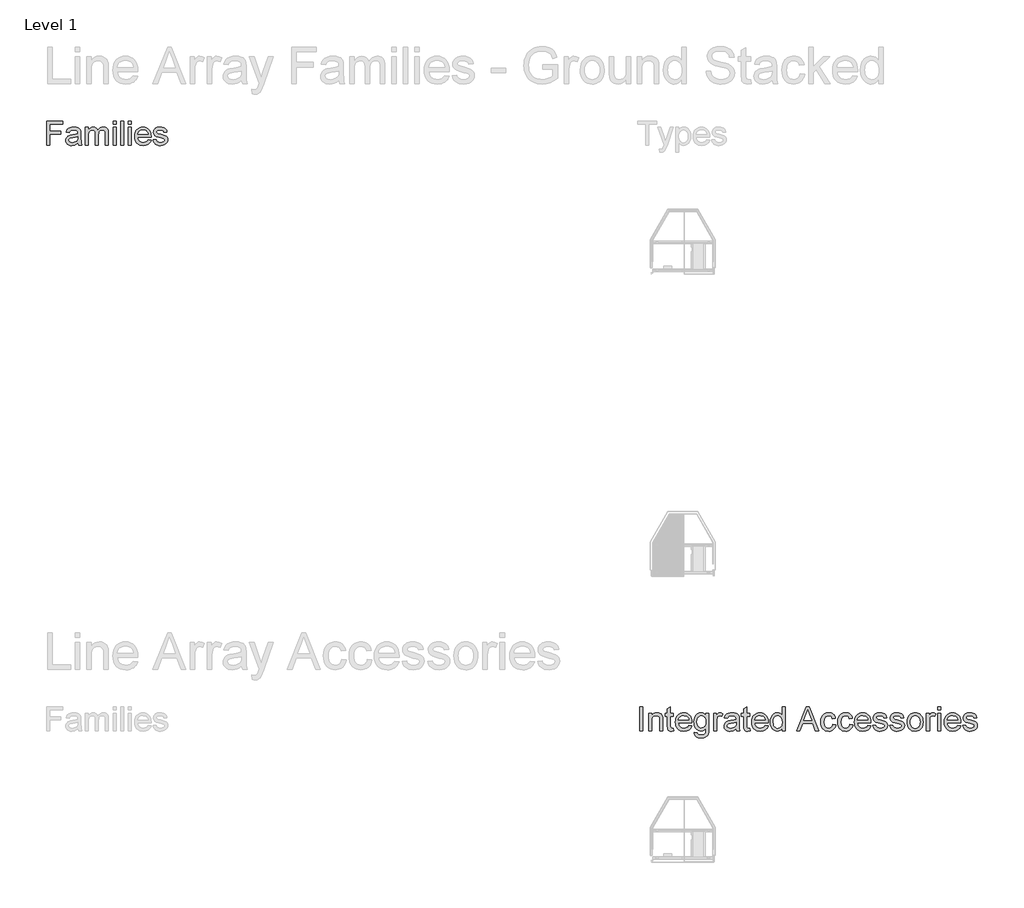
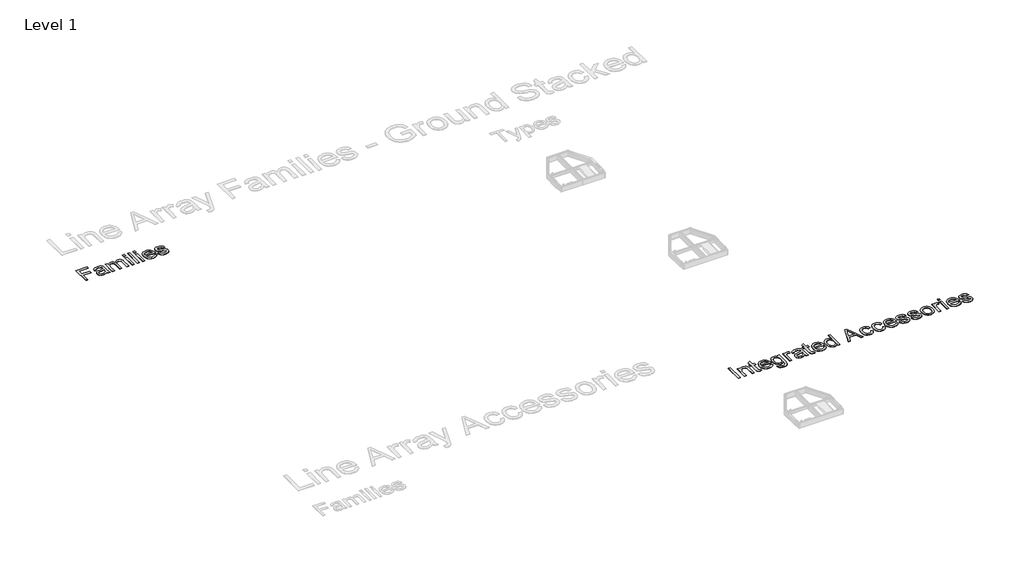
# One storey, part 2 of 7: 2 proxies.
"""IFC4 building model written with IfcOpenShell, lengths in millimetres."""

from ifc_helpers import new_model, si_unit, origin, origin_with_axes, place, context, project, spatial, polyline, outline, extrude, element, save

model = new_model("IFC4")

# Units and contexts
model_context = context("Model", 3, world=origin())
ifc_project = project(units=[si_unit("LENGTHUNIT", "METRE", prefix="MILLI")], contexts=[model_context])

# Site, building, storey
site = spatial("IfcSite", under=ifc_project)
building = spatial("IfcBuilding", under=site)
storey = spatial("IfcBuildingStorey", under=building, Name="Level 1", Elevation=0.0)

# Proxies
placement = place(None, origin())
element("IfcBuildingElementProxy", 1, Name="400mm Arial", ObjectType="400mm Arial", at=placement, inside=storey, context=model_context, shape_type="SweptSolid", body=[
    extrude(outline(polyline([(-21056.720891, -2748.6945164), (-21056.720891, -2356.9369407), (-20793.5087698, -2356.9369407), (-20793.5087698, -2405.9066376), (-21007.7511941, -2405.9066376), (-21007.7511941, -2522.2096679), (-20824.1148304, -2522.2096679), (-20824.1148304, -2571.1793649), (-21007.7511941, -2571.1793649), (-21007.7511941, -2748.6945164), (-21056.720891, -2748.6945164)])), origin_with_axes(), (0.0, 0.0, 1.0), 5.0),
    extrude(outline(polyline([(-20548.660285, -2711.9672437), (-20572.0571836, -2732.02856), (-20596.1475009, -2745.1556907), (-20621.4811893, -2752.4007191), (-20648.6082016, -2754.8157285), (-20670.4120309, -2753.3631362), (-20689.5318522, -2749.0053592), (-20705.9676654, -2741.7423976), (-20719.7194706, -2731.5742513), (-20730.5780466, -2719.1465169), (-20738.3341723, -2705.104791), (-20742.9878477, -2689.4490737), (-20744.5390729, -2672.1793649), (-20742.1957963, -2651.8789388), (-20735.1659668, -2633.4435695), (-20724.3223352, -2617.6623195), (-20710.5376524, -2605.3242513), (-20676.2493001, -2589.2560695), (-20633.879035, -2581.8914861), (-20583.8094327, -2574.144327), (-20548.9472168, -2565.0581528), (-20548.660285, -2554.1547437), (-20552.0317338, -2532.3001035), (-20562.1460804, -2518.0013346), (-20584.7658721, -2507.3848573), (-20616.2805501, -2503.8460316), (-20645.4519516, -2506.2012636), (-20665.8241107, -2513.2669596), (-20679.7163929, -2526.3343128), (-20689.4481638, -2546.6945164), (-20738.4178607, -2540.5733043), (-20729.9175056, -2513.7930013), (-20717.2327282, -2492.7513346), (-20699.1799346, -2476.6592418), (-20674.5755312, -2464.7276604), (-20644.4835568, -2457.339166), (-20609.9680501, -2454.8763346), (-20576.8632916, -2457.0522342), (-20550.6209857, -2463.5799331), (-20530.8346458, -2473.3953924), (-20517.097785, -2485.4345732), (-20507.9876997, -2500.3191613), (-20502.0816865, -2518.6708422), (-20499.690588, -2561.519327), (-20499.690588, -2622.4445164), (-20497.2038456, -2707.5198005), (-20487.4481638, -2748.6945164), (-20536.4178607, -2748.6945164), (-20544.2606638, -2731.6698952), (-20548.660285, -2711.9672437)]), holes=[polyline([(-20548.660285, -2614.0278498), (-20581.5618001, -2622.1814956), (-20627.6621789, -2629.0439482), (-20669.7933342, -2636.9823952), (-20680.7565208, -2642.4101888), (-20688.8743001, -2649.894327), (-20693.8956069, -2658.8609464), (-20695.5693759, -2668.7361831), (-20691.9229507, -2683.2979729), (-20680.9836751, -2695.2295543), (-20662.990659, -2703.1919123), (-20638.1830122, -2705.8460316), (-20611.8809289, -2702.9169359), (-20588.6394516, -2694.129649), (-20569.7975956, -2681.1818507), (-20556.6943759, -2665.771221), (-20550.8840066, -2649.894327), (-20548.9472168, -2627.896221), (-20548.660285, -2614.0278498)])]), origin_with_axes(), (0.0, 0.0, 1.0), 5.0),
    extrude(outline(polyline([(-20432.3572547, -2748.6945164), (-20432.3572547, -2460.9975467), (-20383.3875577, -2460.9975467), (-20383.3875577, -2508.3412967), (-20368.658391, -2486.594256), (-20349.720891, -2469.5576793), (-20327.2206543, -2458.5466708), (-20301.8032774, -2454.8763346), (-20274.5686657, -2458.6184037), (-20252.7379365, -2469.8446111), (-20236.4306448, -2487.8137162), (-20225.7663456, -2511.7844785), (-20207.9167954, -2486.8871656), (-20187.5565918, -2469.1033706), (-20164.6857348, -2458.4330936), (-20139.3042244, -2454.8763346), (-20119.7002057, -2456.3558268), (-20102.4932632, -2460.7943034), (-20087.683397, -2468.1917643), (-20075.2706069, -2478.5482096), (-20065.4581365, -2491.9831942), (-20058.4492291, -2508.6162731), (-20054.2438846, -2528.4474461), (-20052.8421032, -2551.4767134), (-20052.8421032, -2748.6945164), (-20101.8118001, -2748.6945164), (-20101.8118001, -2572.5183801), (-20106.3548872, -2531.630596), (-20112.7391202, -2520.3565666), (-20122.8056448, -2511.4975467), (-20135.7534431, -2505.7589104), (-20150.7814971, -2503.8460316), (-20177.3107348, -2508.7477835), (-20198.9382206, -2523.4530392), (-20207.3279874, -2534.7330463), (-20213.320678, -2548.96606), (-20218.1148304, -2586.2911073), (-20218.1148304, -2748.6945164), (-20267.0845274, -2748.6945164), (-20267.0845274, -2567.0666755), (-20269.9179791, -2539.3777551), (-20278.4183342, -2519.6272816), (-20293.3746552, -2507.7913441), (-20315.5760047, -2503.8460316), (-20334.4417717, -2506.4762399), (-20351.8250577, -2514.3668649), (-20366.1716486, -2527.3266187), (-20375.9273304, -2545.1642134), (-20381.5225009, -2569.9120827), (-20383.3875577, -2603.6026604), (-20383.3875577, -2748.6945164), (-20432.3572547, -2748.6945164)])), origin_with_axes(), (0.0, 0.0, 1.0), 5.0),
    extrude(outline(polyline([(-19979.3875577, -2748.6945164), (-19979.3875577, -2460.9975467), (-19930.4178607, -2460.9975467), (-19930.4178607, -2748.6945164), (-19979.3875577, -2748.6945164)])), origin_with_axes(), (0.0, 0.0, 1.0), 5.0),
    extrude(outline(polyline([(-19979.3875577, -2405.9066376), (-19979.3875577, -2356.9369407), (-19930.4178607, -2356.9369407), (-19930.4178607, -2405.9066376), (-19979.3875577, -2405.9066376)])), origin_with_axes(), (0.0, 0.0, 1.0), 5.0),
    extrude(outline(polyline([(-19856.9633153, -2748.6945164), (-19856.9633153, -2356.9369407), (-19807.9936183, -2356.9369407), (-19807.9936183, -2748.6945164), (-19856.9633153, -2748.6945164)])), origin_with_axes(), (0.0, 0.0, 1.0), 5.0),
    extrude(outline(polyline([(-19734.5390729, -2748.6945164), (-19734.5390729, -2460.9975467), (-19685.5693759, -2460.9975467), (-19685.5693759, -2748.6945164), (-19734.5390729, -2748.6945164)])), origin_with_axes(), (0.0, 0.0, 1.0), 5.0),
    extrude(outline(polyline([(-19734.5390729, -2405.9066376), (-19734.5390729, -2356.9369407), (-19685.5693759, -2356.9369407), (-19685.5693759, -2405.9066376), (-19734.5390729, -2405.9066376)])), origin_with_axes(), (0.0, 0.0, 1.0), 5.0),
    extrude(outline(polyline([(-19410.6886941, -2662.9975467), (-19362.6754365, -2669.1187589), (-19370.0370309, -2688.3491684), (-19379.975034, -2705.2960789), (-19392.4894457, -2719.9594904), (-19407.580266, -2732.3394028), (-19425.0920736, -2742.1727953), (-19444.8694469, -2749.1966471), (-19491.220891, -2754.8157285), (-19521.605775, -2752.3917525), (-19548.6789876, -2745.1198242), (-19572.4405288, -2732.9999437), (-19592.8903986, -2716.0321111), (-19609.3351784, -2694.6885683), (-19621.0814497, -2669.4415571), (-19628.1292125, -2640.2910777), (-19630.4784668, -2607.2371301), (-19628.1053015, -2573.062355), (-19620.9858058, -2542.9404918), (-19609.1199796, -2516.8715406), (-19592.5078229, -2494.8555013), (-19572.1117528, -2477.3646159), (-19548.8941865, -2464.8711263), (-19522.855124, -2457.3750325), (-19493.9945653, -2454.8763346), (-19466.0635461, -2457.3690548), (-19440.8045795, -2464.8472153), (-19418.2176654, -2477.3108161), (-19398.3028039, -2494.7598573), (-19382.0463231, -2516.7280747), (-19370.4345511, -2542.7492039), (-19363.4674879, -2572.8232451), (-19361.1451335, -2606.9501982), (-19361.4320653, -2620.1490619), (-19581.5087698, -2620.1490619), (-19578.6723292, -2639.6903142), (-19573.0323257, -2656.8046017), (-19564.5887592, -2671.4919241), (-19553.3416297, -2683.7522816), (-19524.9234242, -2700.3225941), (-19490.2644516, -2705.8460316), (-19464.2014782, -2703.2875562), (-19442.2511941, -2695.6121301), (-19424.4135994, -2682.3415335), (-19410.6886941, -2662.9975467)]), holes=[polyline([(-19581.5087698, -2571.1793649), (-19410.1148304, -2571.1793649), (-19416.7381732, -2545.3076793), (-19429.721838, -2526.800577), (-19443.076123, -2516.7579634), (-19458.2715539, -2509.5846679), (-19494.1858532, -2503.8460316), (-19527.1949677, -2508.4249852), (-19554.4893569, -2522.161846), (-19573.4627234, -2543.5741329), (-19581.5087698, -2571.1793649)])]), origin_with_axes(), (0.0, 0.0, 1.0), 5.0),
    extrude(outline(polyline([(-19330.5390729, -2662.9975467), (-19281.5693759, -2656.8763346), (-19273.8461278, -2677.8223573), (-19258.9017622, -2693.2210316), (-19236.6406354, -2702.6897816), (-19206.9671032, -2705.8460316), (-19177.6522357, -2702.9528024), (-19157.0409668, -2694.2731149), (-19144.8463645, -2681.6959369), (-19140.7814971, -2667.1102361), (-19144.8702755, -2654.628702), (-19157.1366107, -2645.1121301), (-19207.5409668, -2631.1481149), (-19281.2824441, -2607.1893081), (-19299.9449677, -2595.1501272), (-19313.4666297, -2579.2134558), (-19321.680053, -2560.3955107), (-19324.4178607, -2539.7125089), (-19322.2180501, -2520.7391424), (-19315.6186183, -2503.224346), (-19305.2173399, -2487.8615382), (-19291.6119895, -2475.3441376), (-19260.4798872, -2460.8540808), (-19218.3487319, -2454.8763346), (-19186.4753891, -2457.2793886), (-19158.7625577, -2464.4885505), (-19136.4775198, -2475.7984464), (-19120.8875577, -2490.503702), (-19110.5580122, -2509.6922674), (-19104.0542244, -2534.4520922), (-19153.0239213, -2540.5733043), (-19159.2049109, -2525.1626746), (-19171.4353797, -2513.5538914), (-19189.8348825, -2506.2729965), (-19214.5229744, -2503.8460316), (-19242.6422925, -2506.1653971), (-19261.3885047, -2513.1234937), (-19271.933249, -2523.1661073), (-19275.4481638, -2534.739024), (-19269.6138835, -2548.989971), (-19251.345891, -2559.7977361), (-19209.1669138, -2570.2229255), (-19137.2904933, -2593.2731149), (-19118.3051713, -2604.2960789), (-19103.9107585, -2619.3839104), (-19094.8365397, -2638.5844312), (-19091.8118001, -2661.9454634), (-19095.3625814, -2686.0955581), (-19106.0149251, -2708.8109937), (-19123.3623446, -2728.3104018), (-19146.9983532, -2742.8124142), (-19175.5480691, -2751.8149), (-19207.6366107, -2754.8157285), (-19233.9924938, -2753.369114), (-19257.0127944, -2749.0292702), (-19276.6975127, -2741.7961973), (-19293.0466486, -2731.6698952), (-19306.4009336, -2718.6981859), (-19317.1010994, -2702.9288914), (-19325.1471458, -2684.3620117), (-19330.5390729, -2662.9975467)])), origin_with_axes(), (0.0, 0.0, 1.0), 5.0),
])
element("IfcBuildingElementProxy", 2, Name="400mm Arial", ObjectType="400mm Arial", at=placement, inside=storey, context=model_context, shape_type="SweptSolid", body=[
    extrude(outline(polyline([(-11437.7764845, -12248.6945164), (-11437.7764845, -11856.9369407), (-11388.8067875, -11856.9369407), (-11388.8067875, -12248.6945164), (-11437.7764845, -12248.6945164)])), origin_with_axes(), (0.0, 0.0, 1.0), 5.0),
    extrude(outline(polyline([(-11296.9886057, -12248.6945164), (-11296.9886057, -11960.9975467), (-11248.0189088, -11960.9975467), (-11248.0189088, -12001.1680013), (-11231.006243, -11980.9153971), (-11210.5743065, -11966.4492513), (-11186.7230991, -11957.7695638), (-11159.4526209, -11954.8763346), (-11135.3144817, -11957.2076556), (-11113.2087762, -11964.2016187), (-11094.7734069, -11974.9854729), (-11081.6462762, -11988.6864672), (-11072.7394343, -12005.2687352), (-11066.9649315, -12024.6964104), (-11064.3825451, -12072.0401604), (-11064.3825451, -12248.6945164), (-11113.3522421, -12248.6945164), (-11113.3522421, -12078.6395922), (-11114.7629902, -12053.3178592), (-11118.9952345, -12035.3128876), (-11126.8021711, -12022.4129113), (-11138.9369959, -12012.4061642), (-11154.4910915, -12005.9860647), (-11172.5558406, -12003.8460316), (-11201.2370669, -12008.6521395), (-11225.6860489, -12023.0704634), (-11235.4566751, -12034.8406457), (-11242.4356938, -12050.9267607), (-11246.623105, -12071.3288086), (-11248.0189088, -12096.0467892), (-11248.0189088, -12248.6945164), (-11296.9886057, -12248.6945164)])), origin_with_axes(), (0.0, 0.0, 1.0), 5.0),
    extrude(outline(polyline([(-10892.9886057, -12207.8545543), (-10886.8673936, -12250.1291755), (-10923.4990224, -12254.8157285), (-10947.0035205, -12252.7832948), (-10964.5302724, -12246.6859937), (-10976.9161625, -12237.2889767), (-10984.9980754, -12225.3573952), (-10989.4455186, -12204.8656812), (-10990.9279997, -12169.7882664), (-10990.9279997, -12009.9672437), (-11027.6552724, -12009.9672437), (-11027.6552724, -11960.9975467), (-10990.9279997, -11960.9975467), (-10990.9279997, -11891.081827), (-10941.9583027, -11862.2930013), (-10941.9583027, -11960.9975467), (-10892.9886057, -11960.9975467), (-10892.9886057, -12009.9672437), (-10941.9583027, -12009.9672437), (-10941.9583027, -12168.3536073), (-10939.3759163, -12193.6036073), (-10931.0070716, -12202.5463157), (-10914.3172042, -12205.8460316), (-10892.9886057, -12207.8545543)])), origin_with_axes(), (0.0, 0.0, 1.0), 5.0),
    extrude(outline(polyline([(-10642.5927724, -12162.9975467), (-10594.5795148, -12169.1187589), (-10601.9411093, -12188.3491684), (-10611.8791124, -12205.2960789), (-10624.3935241, -12219.9594904), (-10639.4843444, -12232.3394028), (-10656.9961519, -12242.1727953), (-10676.7735252, -12249.1966471), (-10723.1249694, -12254.8157285), (-10753.5098534, -12252.3917525), (-10780.583066, -12245.1198242), (-10804.3446072, -12232.9999437), (-10824.7944769, -12216.0321111), (-10841.2392568, -12194.6885683), (-10852.9855281, -12169.4415571), (-10860.0332909, -12140.2910777), (-10862.3825451, -12107.2371301), (-10860.0093799, -12073.062355), (-10852.8898841, -12042.9404918), (-10841.0240579, -12016.8715406), (-10824.4119012, -11994.8555013), (-10804.0158311, -11977.3646159), (-10780.7982648, -11964.8711263), (-10754.7592023, -11957.3750325), (-10725.8986436, -11954.8763346), (-10697.9676244, -11957.3690548), (-10672.7086578, -11964.8472153), (-10650.1217438, -11977.3108161), (-10630.2068822, -11994.7598573), (-10613.9504014, -12016.7280747), (-10602.3386294, -12042.7492039), (-10595.3715662, -12072.8232451), (-10593.0492118, -12106.9501982), (-10593.3361436, -12120.1490619), (-10813.4128482, -12120.1490619), (-10810.5764076, -12139.6903142), (-10804.936404, -12156.8046017), (-10796.4928375, -12171.4919241), (-10785.245708, -12183.7522816), (-10756.8275025, -12200.3225941), (-10722.16853, -12205.8460316), (-10696.1055565, -12203.2875562), (-10674.1552724, -12195.6121301), (-10656.3176777, -12182.3415335), (-10642.5927724, -12162.9975467)]), holes=[polyline([(-10813.4128482, -12071.1793649), (-10642.0189088, -12071.1793649), (-10648.6422516, -12045.3076793), (-10661.6259163, -12026.800577), (-10674.9802014, -12016.7579634), (-10690.1756322, -12009.5846679), (-10726.0899315, -12003.8460316), (-10759.0990461, -12008.4249852), (-10786.3934353, -12022.161846), (-10805.3668018, -12043.5741329), (-10813.4128482, -12071.1793649)])]), origin_with_axes(), (0.0, 0.0, 1.0), 5.0),
    extrude(outline(polyline([(-10556.3219391, -12273.1793649), (-10507.3522421, -12279.300577), (-10501.9483595, -12294.6036073), (-10491.4753482, -12305.1244407), (-10470.8879902, -12313.3019975), (-10443.9403103, -12316.0278498), (-10415.1993065, -12312.9433327), (-10393.822886, -12303.6897816), (-10378.9980754, -12288.864971), (-10369.9119012, -12269.0666755), (-10366.5643633, -12211.9672437), (-10382.8596995, -12228.0354255), (-10401.0440035, -12239.5126982), (-10421.1172752, -12246.3990619), (-10443.0795148, -12248.6945164), (-10469.9285619, -12246.0224639), (-10493.5675593, -12238.0063062), (-10513.996507, -12224.6460434), (-10531.215405, -12205.9416755), (-10544.8775439, -12183.5012162), (-10554.6362146, -12158.9326793), (-10560.491417, -12132.2360647), (-10562.4431512, -12103.4113725), (-10558.9401919, -12063.874559), (-10548.4313141, -12027.5179066), (-10531.2871379, -11996.7086026), (-10507.8782838, -11973.8138346), (-10479.0057696, -11959.6107096), (-10445.4706133, -11954.8763346), (-10422.5698676, -11957.5543649), (-10401.785244, -11965.5884558), (-10383.1167426, -11978.9786073), (-10366.5643633, -11997.7248195), (-10366.5643633, -11960.9975467), (-10317.5946663, -11960.9975467), (-10317.5946663, -12209.3848573), (-10320.9422042, -12266.7353545), (-10330.9848179, -12304.5027551), (-10348.2844154, -12329.5495117), (-10373.402905, -12348.738077), (-10405.7903339, -12360.9326793), (-10444.8967497, -12364.9975467), (-10490.4591313, -12359.2708659), (-10509.6088413, -12352.1125148), (-10526.3375641, -12342.0908232), (-10539.8502594, -12329.1938358), (-10549.351887, -12313.4095969), (-10554.8424469, -12294.7381066), (-10556.3219391, -12273.1793649)]), holes=[polyline([(-10513.4734542, -12100.0638346), (-10508.248904, -12144.9806196), (-10501.7182163, -12162.1756066), (-10492.5752535, -12175.8616566), (-10481.4596344, -12186.3017903), (-10469.0109779, -12193.7590287), (-10455.229284, -12198.2333718), (-10440.1145527, -12199.7248195), (-10411.4333264, -12193.7948952), (-10387.7494959, -12176.0051225), (-10378.4810004, -12162.4535718), (-10371.8606464, -12145.5186168), (-10366.5643633, -12101.4984937), (-10372.0160679, -12059.0445401), (-10378.8306985, -12042.2739731), (-10388.3711815, -12028.474346), (-10412.4017213, -12010.0031102), (-10426.0847823, -12005.3853012), (-10440.8797042, -12003.8460316), (-10455.4265496, -12005.3613902), (-10468.843601, -12009.9074662), (-10492.2883216, -12028.0917702), (-10501.5568171, -12041.6821762), (-10508.1771711, -12058.2076556), (-10513.4734542, -12100.0638346)])]), origin_with_axes(), (0.0, 0.0, 1.0), 5.0),
    extrude(outline(polyline([(-10244.1401209, -12248.6945164), (-10244.1401209, -11960.9975467), (-10201.291636, -11960.9975467), (-10201.291636, -12003.5590998), (-10185.4625641, -11978.8829634), (-10170.8768633, -11964.3450846), (-10156.2433406, -11957.2435221), (-10140.2708027, -11954.8763346), (-10115.8815982, -11958.6542702), (-10091.1098179, -11969.988077), (-10107.4649315, -12013.8886452), (-10124.6808406, -12006.356685), (-10141.8967497, -12003.8460316), (-10156.5183169, -12006.261041), (-10169.5856701, -12013.5060695), (-10180.1423699, -12025.0311642), (-10187.2319769, -12040.2863725), (-10193.1858122, -12067.6405392), (-10195.1704239, -12097.4814482), (-10195.1704239, -12248.6945164), (-10244.1401209, -12248.6945164)])), origin_with_axes(), (0.0, 0.0, 1.0), 5.0),
    extrude(outline(polyline([(-9876.8673936, -12211.9672437), (-9900.2642923, -12232.02856), (-9924.3546095, -12245.1556907), (-9949.688298, -12252.4007191), (-9976.8153103, -12254.8157285), (-9998.6191396, -12253.3631362), (-10017.7389608, -12249.0053592), (-10034.1747741, -12241.7423976), (-10047.9265792, -12231.5742513), (-10058.7851552, -12219.1465169), (-10066.5412809, -12205.104791), (-10071.1949563, -12189.4490737), (-10072.7461815, -12172.1793649), (-10070.402905, -12151.8789388), (-10063.3730754, -12133.4435695), (-10052.5294438, -12117.6623195), (-10038.744761, -12105.3242513), (-10004.4564088, -12089.2560695), (-9962.0861436, -12081.8914861), (-9912.0165413, -12074.144327), (-9877.1543254, -12065.0581528), (-9876.8673936, -12054.1547437), (-9880.2388425, -12032.3001035), (-9890.3531891, -12018.0013346), (-9912.9729807, -12007.3848573), (-9944.4876588, -12003.8460316), (-9973.6590603, -12006.2012636), (-9994.0312194, -12013.2669596), (-10007.9235016, -12026.3343128), (-10017.6552724, -12046.6945164), (-10066.6249694, -12040.5733043), (-10058.1246143, -12013.7930013), (-10045.4398368, -11992.7513346), (-10027.3870432, -11976.6592418), (-10002.7826398, -11964.7276604), (-9972.6906654, -11957.339166), (-9938.1751588, -11954.8763346), (-9905.0704002, -11957.0522342), (-9878.8280944, -11963.5799331), (-9859.0417544, -11973.3953924), (-9845.3048936, -11985.4345732), (-9836.1948084, -12000.3191613), (-9830.2887951, -12018.6708422), (-9827.8976966, -12061.519327), (-9827.8976966, -12122.4445164), (-9825.4109542, -12207.5198005), (-9815.6552724, -12248.6945164), (-9864.6249694, -12248.6945164), (-9872.4677724, -12231.6698952), (-9876.8673936, -12211.9672437)]), holes=[polyline([(-9876.8673936, -12114.0278498), (-9909.7689088, -12122.1814956), (-9955.8692875, -12129.0439482), (-9998.0004429, -12136.9823952), (-10008.9636294, -12142.4101888), (-10017.0814088, -12149.894327), (-10022.1027156, -12158.8609464), (-10023.7764845, -12168.7361831), (-10020.1300593, -12183.2979729), (-10009.1907838, -12195.2295543), (-9991.1977677, -12203.1919123), (-9966.3901209, -12205.8460316), (-9940.0880375, -12202.9169359), (-9916.8465603, -12194.129649), (-9898.0047042, -12181.1818507), (-9884.9014845, -12165.771221), (-9879.0911152, -12149.894327), (-9877.1543254, -12127.896221), (-9876.8673936, -12114.0278498)])]), origin_with_axes(), (0.0, 0.0, 1.0), 5.0),
    extrude(outline(polyline([(-9656.5037572, -12207.8545543), (-9650.3825451, -12250.1291755), (-9687.0141739, -12254.8157285), (-9710.518672, -12252.7832948), (-9728.0454239, -12246.6859937), (-9740.4313141, -12237.2889767), (-9748.5132269, -12225.3573952), (-9752.9606701, -12204.8656812), (-9754.4431512, -12169.7882664), (-9754.4431512, -12009.9672437), (-9791.1704239, -12009.9672437), (-9791.1704239, -11960.9975467), (-9754.4431512, -11960.9975467), (-9754.4431512, -11891.081827), (-9705.4734542, -11862.2930013), (-9705.4734542, -11960.9975467), (-9656.5037572, -11960.9975467), (-9656.5037572, -12009.9672437), (-9705.4734542, -12009.9672437), (-9705.4734542, -12168.3536073), (-9702.8910679, -12193.6036073), (-9694.5222232, -12202.5463157), (-9677.8323557, -12205.8460316), (-9656.5037572, -12207.8545543)])), origin_with_axes(), (0.0, 0.0, 1.0), 5.0),
    extrude(outline(polyline([(-9406.1079239, -12162.9975467), (-9358.0946663, -12169.1187589), (-9365.4562608, -12188.3491684), (-9375.3942639, -12205.2960789), (-9387.9086756, -12219.9594904), (-9402.9994959, -12232.3394028), (-9420.5113034, -12242.1727953), (-9440.2886768, -12249.1966471), (-9486.6401209, -12254.8157285), (-9517.0250049, -12252.3917525), (-9544.0982175, -12245.1198242), (-9567.8597587, -12232.9999437), (-9588.3096285, -12216.0321111), (-9604.7544083, -12194.6885683), (-9616.5006796, -12169.4415571), (-9623.5484424, -12140.2910777), (-9625.8976966, -12107.2371301), (-9623.5245314, -12073.062355), (-9616.4050357, -12042.9404918), (-9604.5392094, -12016.8715406), (-9587.9270527, -11994.8555013), (-9567.5309826, -11977.3646159), (-9544.3134163, -11964.8711263), (-9518.2743538, -11957.3750325), (-9489.4137951, -11954.8763346), (-9461.4827759, -11957.3690548), (-9436.2238093, -11964.8472153), (-9413.6368953, -11977.3108161), (-9393.7220338, -11994.7598573), (-9377.4655529, -12016.7280747), (-9365.8537809, -12042.7492039), (-9358.8867177, -12072.8232451), (-9356.5643633, -12106.9501982), (-9356.8512951, -12120.1490619), (-9576.9279997, -12120.1490619), (-9574.0915591, -12139.6903142), (-9568.4515555, -12156.8046017), (-9560.007989, -12171.4919241), (-9548.7608595, -12183.7522816), (-9520.342654, -12200.3225941), (-9485.6836815, -12205.8460316), (-9459.620708, -12203.2875562), (-9437.6704239, -12195.6121301), (-9419.8328292, -12182.3415335), (-9406.1079239, -12162.9975467)]), holes=[polyline([(-9576.9279997, -12071.1793649), (-9405.5340603, -12071.1793649), (-9412.1574031, -12045.3076793), (-9425.1410679, -12026.800577), (-9438.4953529, -12016.7579634), (-9453.6907838, -12009.5846679), (-9489.605083, -12003.8460316), (-9522.6141976, -12008.4249852), (-9549.9085868, -12022.161846), (-9568.8819533, -12043.5741329), (-9576.9279997, -12071.1793649)])]), origin_with_axes(), (0.0, 0.0, 1.0), 5.0),
    extrude(outline(polyline([(-9130.0795148, -12248.6945164), (-9130.0795148, -12202.4984937), (-9144.7309708, -12225.3872839), (-9162.4788993, -12241.7364198), (-9183.3233003, -12251.5459014), (-9207.2641739, -12254.8157285), (-9238.9223179, -12250.0813535), (-9267.9024315, -12235.8782285), (-9292.4351019, -12213.1986594), (-9310.7509163, -12183.034952), (-9322.1564561, -12146.6065666), (-9325.9583027, -12105.1329634), (-9322.4553434, -12064.1734464), (-9311.9464656, -12027.1831528), (-9294.4436247, -11996.2662494), (-9269.9587762, -11973.5269028), (-9240.3450214, -11959.5389767), (-9207.4554618, -11954.8763346), (-9183.496655, -11958.211917), (-9162.3115224, -11968.2186642), (-9144.3543728, -11983.5575609), (-9130.0795148, -12002.8895922), (-9130.0795148, -11856.9369407), (-9081.1098179, -11856.9369407), (-9081.1098179, -12248.6945164), (-9130.0795148, -12248.6945164)]), holes=[polyline([(-9276.9886057, -12104.9416755), (-9271.4651682, -12149.236775), (-9264.5608714, -12166.5871833), (-9254.8948557, -12180.7394975), (-9230.816494, -12199.5693981), (-9217.2888543, -12204.2768732), (-9202.7689088, -12205.8460316), (-9174.733279, -12199.8563299), (-9151.2646474, -12181.8872248), (-9141.9961519, -12168.3267075), (-9135.375798, -12151.6039625), (-9130.0795148, -12108.6717892), (-9135.4714419, -12061.7345259), (-9142.2113508, -12043.6637991), (-9151.6472232, -12029.1916755), (-9163.0557518, -12018.1029563), (-9175.7136294, -12010.1824426), (-9189.620856, -12005.4301343), (-9204.7774315, -12003.8460316), (-9219.5843089, -12005.367368), (-9233.1119485, -12009.9313772), (-9245.3603505, -12017.5380593), (-9256.3295148, -12028.1874142), (-9265.3678671, -12042.112574), (-9271.823833, -12059.5466708), (-9276.9886057, -12104.9416755)])]), origin_with_axes(), (0.0, 0.0, 1.0), 5.0),
    extrude(outline(polyline([(-8894.1259163, -12248.6945164), (-8737.7480754, -11856.9369407), (-8696.0473179, -11856.9369407), (-8539.6694769, -12248.6945164), (-8591.4128482, -12248.6945164), (-8636.2698557, -12126.270274), (-8797.6211815, -12126.270274), (-8842.3825451, -12248.6945164), (-8894.1259163, -12248.6945164)]), holes=[polyline([(-8779.6401209, -12077.300577), (-8654.1552724, -12077.300577), (-8689.447886, -11980.9871301), (-8716.8976966, -11905.9066376), (-8741.2869012, -11972.5704634), (-8779.6401209, -12077.300577)])]), origin_with_axes(), (0.0, 0.0, 1.0), 5.0),
    extrude(outline(polyline([(-8309.8370906, -12144.6339104), (-8260.8673936, -12150.7551225), (-8266.1935655, -12173.8621005), (-8274.520566, -12194.3089814), (-8285.848395, -12212.0957652), (-8300.1770527, -12227.222452), (-8316.9027866, -12239.2945105), (-8335.4218444, -12247.9174094), (-8355.734226, -12253.0911488), (-8377.8399315, -12254.8157285), (-8405.3046865, -12252.4096857), (-8429.930012, -12245.1915571), (-8451.715908, -12233.1613429), (-8470.6623747, -12216.3190429), (-8485.9982826, -12194.9814778), (-8496.9525025, -12169.4654681), (-8503.5250345, -12139.7710138), (-8505.7158785, -12105.8981149), (-8501.9738093, -12062.320345), (-8490.7476019, -12024.5529445), (-8471.8579239, -11994.0544833), (-8445.1254429, -11972.2835316), (-8413.1445006, -11959.2281339), (-8378.5094391, -11954.8763346), (-8356.7833205, -11956.3707712), (-8337.1314798, -11960.8540808), (-8319.553917, -11968.3262636), (-8304.0506322, -11978.7873195), (-8290.8846462, -11991.9981386), (-8280.3189798, -12007.7196111), (-8272.353633, -12025.9517371), (-8266.9886057, -12046.6945164), (-8315.9583027, -12052.8157285), (-8324.8412336, -12031.4512636), (-8338.6737383, -12016.1362778), (-8356.6906654, -12006.9185931), (-8378.1268633, -12003.8460316), (-8394.7659199, -12005.3584014), (-8409.7730518, -12009.8955107), (-8423.1482589, -12017.4573597), (-8434.8915413, -12028.0439482), (-8444.4529464, -12041.900364), (-8451.2825214, -12059.2716945), (-8456.7461815, -12104.5590998), (-8451.4020764, -12150.4562352), (-8444.721945, -12167.9441317), (-8435.369761, -12181.7915808), (-8423.8596107, -12192.315403), (-8410.7055802, -12199.8324189), (-8395.9076694, -12204.3426284), (-8379.4658785, -12205.8460316), (-8354.108279, -12202.092007), (-8333.3176777, -12190.8299331), (-8318.1939798, -12171.7728782), (-8309.8370906, -12144.6339104)])), origin_with_axes(), (0.0, 0.0, 1.0), 5.0),
    extrude(outline(polyline([(-8034.3825451, -12144.6339104), (-7985.4128482, -12150.7551225), (-7990.73902, -12173.8621005), (-7999.0660205, -12194.3089814), (-8010.3938496, -12212.0957652), (-8024.7225072, -12227.222452), (-8041.4482411, -12239.2945105), (-8059.9672989, -12247.9174094), (-8080.2796805, -12253.0911488), (-8102.385386, -12254.8157285), (-8129.850141, -12252.4096857), (-8154.4754665, -12245.1915571), (-8176.2613626, -12233.1613429), (-8195.2078292, -12216.3190429), (-8210.5437371, -12194.9814778), (-8221.4979571, -12169.4654681), (-8228.070489, -12139.7710138), (-8230.261333, -12105.8981149), (-8226.5192639, -12062.320345), (-8215.2930565, -12024.5529445), (-8196.4033785, -11994.0544833), (-8169.6708974, -11972.2835316), (-8137.6899552, -11959.2281339), (-8103.0548936, -11954.8763346), (-8081.328775, -11956.3707712), (-8061.6769343, -11960.8540808), (-8044.0993716, -11968.3262636), (-8028.5960868, -11978.7873195), (-8015.4301008, -11991.9981386), (-8004.8644343, -12007.7196111), (-7996.8990875, -12025.9517371), (-7991.5340603, -12046.6945164), (-8040.5037572, -12052.8157285), (-8049.3866881, -12031.4512636), (-8063.2191929, -12016.1362778), (-8081.2361199, -12006.9185931), (-8102.6723179, -12003.8460316), (-8119.3113744, -12005.3584014), (-8134.3185063, -12009.8955107), (-8147.6937134, -12017.4573597), (-8159.4369959, -12028.0439482), (-8168.9984009, -12041.900364), (-8175.827976, -12059.2716945), (-8181.291636, -12104.5590998), (-8175.9475309, -12150.4562352), (-8169.2673995, -12167.9441317), (-8159.9152156, -12181.7915808), (-8148.4050652, -12192.315403), (-8135.2510347, -12199.8324189), (-8120.453124, -12204.3426284), (-8104.011333, -12205.8460316), (-8078.6537336, -12202.092007), (-8057.8631322, -12190.8299331), (-8042.7394343, -12171.7728782), (-8034.3825451, -12144.6339104)])), origin_with_axes(), (0.0, 0.0, 1.0), 5.0),
    extrude(outline(polyline([(-7741.1382269, -12162.9975467), (-7693.1249694, -12169.1187589), (-7700.4865638, -12188.3491684), (-7710.4245669, -12205.2960789), (-7722.9389786, -12219.9594904), (-7738.0297989, -12232.3394028), (-7755.5416064, -12242.1727953), (-7775.3189798, -12249.1966471), (-7821.6704239, -12254.8157285), (-7852.0553079, -12252.3917525), (-7879.1285205, -12245.1198242), (-7902.8900617, -12232.9999437), (-7923.3399315, -12216.0321111), (-7939.7847113, -12194.6885683), (-7951.5309826, -12169.4415571), (-7958.5787454, -12140.2910777), (-7960.9279997, -12107.2371301), (-7958.5548344, -12073.062355), (-7951.4353387, -12042.9404918), (-7939.5695125, -12016.8715406), (-7922.9573557, -11994.8555013), (-7902.5612857, -11977.3646159), (-7879.3437194, -11964.8711263), (-7853.3046569, -11957.3750325), (-7824.4440982, -11954.8763346), (-7796.513079, -11957.3690548), (-7771.2541124, -11964.8472153), (-7748.6671983, -11977.3108161), (-7728.7523368, -11994.7598573), (-7712.495856, -12016.7280747), (-7700.8840839, -12042.7492039), (-7693.9170207, -12072.8232451), (-7691.5946663, -12106.9501982), (-7691.8815982, -12120.1490619), (-7911.9583027, -12120.1490619), (-7909.1218621, -12139.6903142), (-7903.4818586, -12156.8046017), (-7895.038292, -12171.4919241), (-7883.7911625, -12183.7522816), (-7855.3729571, -12200.3225941), (-7820.7139845, -12205.8460316), (-7794.651011, -12203.2875562), (-7772.7007269, -12195.6121301), (-7754.8631322, -12182.3415335), (-7741.1382269, -12162.9975467)]), holes=[polyline([(-7911.9583027, -12071.1793649), (-7740.5643633, -12071.1793649), (-7747.1877061, -12045.3076793), (-7760.1713709, -12026.800577), (-7773.5256559, -12016.7579634), (-7788.7210868, -12009.5846679), (-7824.635386, -12003.8460316), (-7857.6445006, -12008.4249852), (-7884.9388898, -12022.161846), (-7903.9122563, -12043.5741329), (-7911.9583027, -12071.1793649)])]), origin_with_axes(), (0.0, 0.0, 1.0), 5.0),
    extrude(outline(polyline([(-7660.9886057, -12162.9975467), (-7612.0189088, -12156.8763346), (-7604.2956607, -12177.8223573), (-7589.3512951, -12193.2210316), (-7567.0901682, -12202.6897816), (-7537.416636, -12205.8460316), (-7508.1017686, -12202.9528024), (-7487.4904997, -12194.2731149), (-7475.2958974, -12181.6959369), (-7471.23103, -12167.1102361), (-7475.3198084, -12154.628702), (-7487.5861436, -12145.1121301), (-7537.9904997, -12131.1481149), (-7611.7319769, -12107.1893081), (-7630.3945006, -12095.1501272), (-7643.9161625, -12079.2134558), (-7652.1295858, -12060.3955107), (-7654.8673936, -12039.7125089), (-7652.667583, -12020.7391424), (-7646.0681512, -12003.224346), (-7635.6668728, -11987.8615382), (-7622.0615224, -11975.3441376), (-7590.9294201, -11960.8540808), (-7548.7982648, -11954.8763346), (-7516.924922, -11957.2793886), (-7489.2120906, -11964.4885505), (-7466.9270527, -11975.7984464), (-7451.3370906, -11990.503702), (-7441.0075451, -12009.6922674), (-7434.5037572, -12034.4520922), (-7483.4734542, -12040.5733043), (-7489.6544438, -12025.1626746), (-7501.8849125, -12013.5538914), (-7520.2844154, -12006.2729965), (-7544.9725072, -12003.8460316), (-7573.0918254, -12006.1653971), (-7591.8380375, -12013.1234937), (-7602.3827819, -12023.1661073), (-7605.8976966, -12034.739024), (-7600.0634163, -12048.989971), (-7581.7954239, -12059.7977361), (-7539.6164466, -12070.2229255), (-7467.7400262, -12093.2731149), (-7448.7547042, -12104.2960789), (-7434.3602913, -12119.3839104), (-7425.2860726, -12138.5844312), (-7422.261333, -12161.9454634), (-7425.8121143, -12186.0955581), (-7436.464458, -12208.8109937), (-7453.8118775, -12228.3104018), (-7477.447886, -12242.8124142), (-7505.9976019, -12251.8149), (-7538.0861436, -12254.8157285), (-7564.4420267, -12253.369114), (-7587.4623273, -12249.0292702), (-7607.1470456, -12241.7961973), (-7623.4961815, -12231.6698952), (-7636.8504665, -12218.6981859), (-7647.5506322, -12202.9288914), (-7655.5966786, -12184.3620117), (-7660.9886057, -12162.9975467)])), origin_with_axes(), (0.0, 0.0, 1.0), 5.0),
    extrude(outline(polyline([(-7385.5340603, -12162.9975467), (-7336.5643633, -12156.8763346), (-7328.8411152, -12177.8223573), (-7313.8967497, -12193.2210316), (-7291.6356228, -12202.6897816), (-7261.9620906, -12205.8460316), (-7232.6472232, -12202.9528024), (-7212.0359542, -12194.2731149), (-7199.8413519, -12181.6959369), (-7195.7764845, -12167.1102361), (-7199.8652629, -12154.628702), (-7212.1315982, -12145.1121301), (-7262.5359542, -12131.1481149), (-7336.2774315, -12107.1893081), (-7354.9399552, -12095.1501272), (-7368.4616171, -12079.2134558), (-7376.6750404, -12060.3955107), (-7379.4128482, -12039.7125089), (-7377.2130375, -12020.7391424), (-7370.6136057, -12003.224346), (-7360.2123273, -11987.8615382), (-7346.6069769, -11975.3441376), (-7315.4748747, -11960.8540808), (-7273.3437194, -11954.8763346), (-7241.4703766, -11957.2793886), (-7213.7575451, -11964.4885505), (-7191.4725072, -11975.7984464), (-7175.8825451, -11990.503702), (-7165.5529997, -12009.6922674), (-7159.0492118, -12034.4520922), (-7208.0189088, -12040.5733043), (-7214.1998983, -12025.1626746), (-7226.4303671, -12013.5538914), (-7244.8298699, -12006.2729965), (-7269.5179618, -12003.8460316), (-7297.63728, -12006.1653971), (-7316.3834921, -12013.1234937), (-7326.9282364, -12023.1661073), (-7330.4431512, -12034.739024), (-7324.6088709, -12048.989971), (-7306.3408785, -12059.7977361), (-7264.1619012, -12070.2229255), (-7192.2854807, -12093.2731149), (-7173.3001588, -12104.2960789), (-7158.9057459, -12119.3839104), (-7149.8315271, -12138.5844312), (-7146.8067875, -12161.9454634), (-7150.3575688, -12186.0955581), (-7161.0099125, -12208.8109937), (-7178.3573321, -12228.3104018), (-7201.9933406, -12242.8124142), (-7230.5430565, -12251.8149), (-7262.6315982, -12254.8157285), (-7288.9874812, -12253.369114), (-7312.0077819, -12249.0292702), (-7331.6925001, -12241.7961973), (-7348.041636, -12231.6698952), (-7361.3959211, -12218.6981859), (-7372.0960868, -12202.9288914), (-7380.1421332, -12184.3620117), (-7385.5340603, -12162.9975467)])), origin_with_axes(), (0.0, 0.0, 1.0), 5.0),
    extrude(outline(polyline([(-7103.9583027, -12104.8460316), (-7101.3101611, -12067.5867394), (-7093.3657364, -12035.4802645), (-7080.1250286, -12008.5266069), (-7061.5880375, -11986.7257664), (-7042.9255139, -11972.79164), (-7022.3262004, -11962.8386926), (-6999.7900972, -11956.8669241), (-6975.3172042, -11954.8763346), (-6948.3007802, -11957.3003107), (-6923.8727203, -11964.572239), (-6902.0330245, -11976.6921194), (-6882.7816929, -11993.659952), (-6867.0691869, -12014.9018732), (-6855.8459684, -12039.8440193), (-6849.1120373, -12068.4863902), (-6846.8673936, -12100.8289861), (-6850.8366171, -12150.3008138), (-6862.7442875, -12187.9606149), (-6882.2436957, -12216.1636215), (-6908.9881322, -12237.2650657), (-6940.7538756, -12250.4280628), (-6975.3172042, -12254.8157285), (-7002.7281595, -12252.4007191), (-7027.3833737, -12245.1556907), (-7049.282847, -12233.0806433), (-7068.4265792, -12216.175577), (-7083.9717082, -12194.7274236), (-7095.0753718, -12169.0231149), (-7101.73757, -12139.0626509), (-7103.9583027, -12104.8460316)]), holes=[polyline([(-7054.9886057, -12104.7503876), (-7053.5718799, -12128.5029622), (-7049.3217023, -12149.0693981), (-7042.2380731, -12166.4496952), (-7032.3209921, -12180.6438535), (-7020.2579002, -12191.6698064), (-7006.7362383, -12199.5454871), (-6991.7560063, -12204.2708955), (-6975.3172042, -12205.8460316), (-6958.9620906, -12204.2619288), (-6944.041636, -12199.5096206), (-6930.5558406, -12191.5891069), (-6918.5047042, -12180.5003876), (-6908.5876232, -12166.1657522), (-6901.503994, -12148.5074899), (-6897.2538164, -12127.5256007), (-6895.8370906, -12103.2200846), (-6897.262783, -12080.2207061), (-6901.5398605, -12060.1922674), (-6908.6683228, -12043.1347686), (-6918.6481701, -12029.0482096), (-6930.7441396, -12018.0222567), (-6944.2209684, -12010.1465761), (-6959.0786566, -12005.4211677), (-6975.3172042, -12003.8460316), (-6991.7560063, -12005.41519), (-7006.7362383, -12010.1226651), (-7020.2579002, -12017.968457), (-7032.3209921, -12028.9525657), (-7042.2380731, -12043.1048798), (-7049.3217023, -12060.4552882), (-7053.5718799, -12081.0037908), (-7054.9886057, -12104.7503876)])]), origin_with_axes(), (0.0, 0.0, 1.0), 5.0),
    extrude(outline(polyline([(-6791.7764845, -12248.6945164), (-6791.7764845, -11960.9975467), (-6748.9279997, -11960.9975467), (-6748.9279997, -12003.5590998), (-6733.0989277, -11978.8829634), (-6718.5132269, -11964.3450846), (-6703.8797042, -11957.2435221), (-6687.9071663, -11954.8763346), (-6663.5179618, -11958.6542702), (-6638.7461815, -11969.988077), (-6655.1012951, -12013.8886452), (-6672.3172042, -12006.356685), (-6689.5331133, -12003.8460316), (-6704.1546805, -12006.261041), (-6717.2220338, -12013.5060695), (-6727.7787336, -12025.0311642), (-6734.8683406, -12040.2863725), (-6740.8221758, -12067.6405392), (-6742.8067875, -12097.4814482), (-6742.8067875, -12248.6945164), (-6791.7764845, -12248.6945164)])), origin_with_axes(), (0.0, 0.0, 1.0), 5.0),
    extrude(outline(polyline([(-6608.1401209, -12248.6945164), (-6608.1401209, -11960.9975467), (-6559.1704239, -11960.9975467), (-6559.1704239, -12248.6945164), (-6608.1401209, -12248.6945164)])), origin_with_axes(), (0.0, 0.0, 1.0), 5.0),
    extrude(outline(polyline([(-6608.1401209, -11905.9066376), (-6608.1401209, -11856.9369407), (-6559.1704239, -11856.9369407), (-6559.1704239, -11905.9066376), (-6608.1401209, -11905.9066376)])), origin_with_axes(), (0.0, 0.0, 1.0), 5.0),
    extrude(outline(polyline([(-6284.2897421, -12162.9975467), (-6236.2764845, -12169.1187589), (-6243.638079, -12188.3491684), (-6253.5760821, -12205.2960789), (-6266.0904938, -12219.9594904), (-6281.1813141, -12232.3394028), (-6298.6931216, -12242.1727953), (-6318.4704949, -12249.1966471), (-6364.8219391, -12254.8157285), (-6395.2068231, -12252.3917525), (-6422.2800357, -12245.1198242), (-6446.0415768, -12232.9999437), (-6466.4914466, -12216.0321111), (-6482.9362265, -12194.6885683), (-6494.6824978, -12169.4415571), (-6501.7302606, -12140.2910777), (-6504.0795148, -12107.2371301), (-6501.7063496, -12073.062355), (-6494.5868538, -12042.9404918), (-6482.7210276, -12016.8715406), (-6466.1088709, -11994.8555013), (-6445.7128008, -11977.3646159), (-6422.4952345, -11964.8711263), (-6396.456172, -11957.3750325), (-6367.5956133, -11954.8763346), (-6339.6645941, -11957.3690548), (-6314.4056275, -11964.8472153), (-6291.8187134, -11977.3108161), (-6271.9038519, -11994.7598573), (-6255.6473711, -12016.7280747), (-6244.0355991, -12042.7492039), (-6237.0685359, -12072.8232451), (-6234.7461815, -12106.9501982), (-6235.0331133, -12120.1490619), (-6455.1098179, -12120.1490619), (-6452.2733773, -12139.6903142), (-6446.6333737, -12156.8046017), (-6438.1898072, -12171.4919241), (-6426.9426777, -12183.7522816), (-6398.5244722, -12200.3225941), (-6363.8654997, -12205.8460316), (-6337.8025262, -12203.2875562), (-6315.8522421, -12195.6121301), (-6298.0146474, -12182.3415335), (-6284.2897421, -12162.9975467)]), holes=[polyline([(-6455.1098179, -12071.1793649), (-6283.7158785, -12071.1793649), (-6290.3392213, -12045.3076793), (-6303.322886, -12026.800577), (-6316.6771711, -12016.7579634), (-6331.8726019, -12009.5846679), (-6367.7869012, -12003.8460316), (-6400.7960158, -12008.4249852), (-6428.090405, -12022.161846), (-6447.0637714, -12043.5741329), (-6455.1098179, -12071.1793649)])]), origin_with_axes(), (0.0, 0.0, 1.0), 5.0),
    extrude(outline(polyline([(-6204.1401209, -12162.9975467), (-6155.1704239, -12156.8763346), (-6147.4471758, -12177.8223573), (-6132.5028103, -12193.2210316), (-6110.2416834, -12202.6897816), (-6080.5681512, -12205.8460316), (-6051.2532838, -12202.9528024), (-6030.6420148, -12194.2731149), (-6018.4474125, -12181.6959369), (-6014.3825451, -12167.1102361), (-6018.4713235, -12154.628702), (-6030.7376588, -12145.1121301), (-6081.1420148, -12131.1481149), (-6154.8834921, -12107.1893081), (-6173.5460158, -12095.1501272), (-6187.0676777, -12079.2134558), (-6195.281101, -12060.3955107), (-6198.0189088, -12039.7125089), (-6195.8190982, -12020.7391424), (-6189.2196663, -12003.224346), (-6178.8183879, -11987.8615382), (-6165.2130375, -11975.3441376), (-6134.0809353, -11960.8540808), (-6091.94978, -11954.8763346), (-6060.0764372, -11957.2793886), (-6032.3636057, -11964.4885505), (-6010.0785679, -11975.7984464), (-5994.4886057, -11990.503702), (-5984.1590603, -12009.6922674), (-5977.6552724, -12034.4520922), (-6026.6249694, -12040.5733043), (-6032.8059589, -12025.1626746), (-6045.0364277, -12013.5538914), (-6063.4359305, -12006.2729965), (-6088.1240224, -12003.8460316), (-6116.2433406, -12006.1653971), (-6134.9895527, -12013.1234937), (-6145.534297, -12023.1661073), (-6149.0492118, -12034.739024), (-6143.2149315, -12048.989971), (-6124.9469391, -12059.7977361), (-6082.7679618, -12070.2229255), (-6010.8915413, -12093.2731149), (-5991.9062194, -12104.2960789), (-5977.5118065, -12119.3839104), (-5968.4375877, -12138.5844312), (-5965.4128482, -12161.9454634), (-5968.9636294, -12186.0955581), (-5979.6159732, -12208.8109937), (-5996.9633927, -12228.3104018), (-6020.5994012, -12242.8124142), (-6049.1491171, -12251.8149), (-6081.2376588, -12254.8157285), (-6107.5935418, -12253.369114), (-6130.6138425, -12249.0292702), (-6150.2985607, -12241.7961973), (-6166.6476966, -12231.6698952), (-6180.0019817, -12218.6981859), (-6190.7021474, -12202.9288914), (-6198.7481938, -12184.3620117), (-6204.1401209, -12162.9975467)])), origin_with_axes(), (0.0, 0.0, 1.0), 5.0),
])

save(model, "model.ifc")
